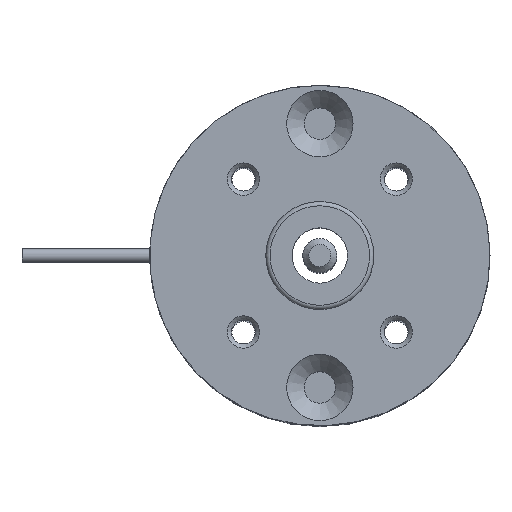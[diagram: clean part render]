
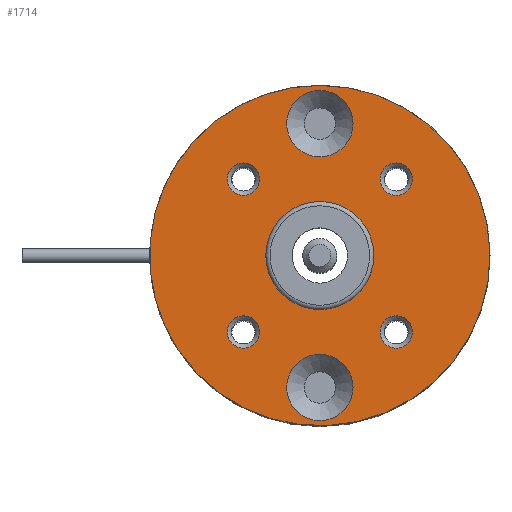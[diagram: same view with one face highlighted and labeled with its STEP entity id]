
A CAD part, top view. The second image highlights one B-rep face of the part: STEP entity #1714.
In plain terms, the highlighted planar face has unit normal (0, 0, 1).
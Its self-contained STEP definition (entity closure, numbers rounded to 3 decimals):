
#1526=CARTESIAN_POINT('',(-19.4,0.,12.6));
#1527=VERTEX_POINT('',#1526);
#1528=CARTESIAN_POINT('',(-15.5,0.,12.6));
#1529=DIRECTION('',(0.0,0.0,-1.0));
#1530=DIRECTION('',(-1.0,0.0,0.0));
#1531=AXIS2_PLACEMENT_3D('',#1528,#1529,#1530);
#1532=CIRCLE('',#1531,3.9);
#1533=EDGE_CURVE('',#1527,#1527,#1532,.T.);
#1574=CARTESIAN_POINT('',(19.4,0.0,12.6));
#1575=VERTEX_POINT('',#1574);
#1576=CARTESIAN_POINT('',(15.5,0.0,12.6));
#1577=DIRECTION('',(0.0,0.0,-1.0));
#1578=DIRECTION('',(1.0,0.0,0.0));
#1579=AXIS2_PLACEMENT_3D('',#1576,#1577,#1578);
#1580=CIRCLE('',#1579,3.9);
#1581=EDGE_CURVE('',#1575,#1575,#1580,.T.);
#1633=CARTESIAN_POINT('',(-8.98,10.88,12.6));
#1634=VERTEX_POINT('',#1633);
#1635=CARTESIAN_POINT('',(-8.98,8.98,12.6));
#1636=DIRECTION('',(0.0,0.0,1.0));
#1637=DIRECTION('',(0.0,-1.0,0.0));
#1638=AXIS2_PLACEMENT_3D('',#1635,#1636,#1637);
#1639=CIRCLE('',#1638,1.9);
#1640=EDGE_CURVE('',#1634,#1634,#1639,.T.);
#1645=CARTESIAN_POINT('',(0.0,0.0,12.6));
#1646=DIRECTION('',(0.0,0.0,-1.0));
#1647=DIRECTION('',(-1.0,0.0,0.0));
#1648=AXIS2_PLACEMENT_3D('',#1645,#1646,#1647);
#1649=PLANE('',#1648);
#1650=CARTESIAN_POINT('',(20.0,0.,12.6));
#1651=VERTEX_POINT('',#1650);
#1652=CARTESIAN_POINT('',(0.0,0.0,12.6));
#1653=DIRECTION('',(0.0,0.0,-1.0));
#1654=DIRECTION('',(-1.0,0.0,0.0));
#1655=AXIS2_PLACEMENT_3D('',#1652,#1653,#1654);
#1656=CIRCLE('',#1655,20.0);
#1657=EDGE_CURVE('',#1651,#1651,#1656,.T.);
#1658=ORIENTED_EDGE('',*,*,#1657,.F.);
#1659=EDGE_LOOP('',(#1658));
#1660=FACE_OUTER_BOUND('',#1659,.T.);
#1661=ORIENTED_EDGE('',*,*,#1533,.T.);
#1662=EDGE_LOOP('',(#1661));
#1663=FACE_BOUND('',#1662,.T.);
#1664=ORIENTED_EDGE('',*,*,#1581,.T.);
#1665=EDGE_LOOP('',(#1664));
#1666=FACE_BOUND('',#1665,.T.);
#1667=CARTESIAN_POINT('',(-10.88,-8.98,12.6));
#1668=VERTEX_POINT('',#1667);
#1669=CARTESIAN_POINT('',(-8.98,-8.98,12.6));
#1670=DIRECTION('',(0.0,0.0,1.0));
#1671=DIRECTION('',(1.0,0.0,0.0));
#1672=AXIS2_PLACEMENT_3D('',#1669,#1670,#1671);
#1673=CIRCLE('',#1672,1.9);
#1674=EDGE_CURVE('',#1668,#1668,#1673,.T.);
#1675=ORIENTED_EDGE('',*,*,#1674,.F.);
#1676=EDGE_LOOP('',(#1675));
#1677=FACE_BOUND('',#1676,.T.);
#1678=CARTESIAN_POINT('',(10.88,8.98,12.6));
#1679=VERTEX_POINT('',#1678);
#1680=CARTESIAN_POINT('',(8.98,8.98,12.6));
#1681=DIRECTION('',(0.0,0.0,1.0));
#1682=DIRECTION('',(-1.0,0.0,0.0));
#1683=AXIS2_PLACEMENT_3D('',#1680,#1681,#1682);
#1684=CIRCLE('',#1683,1.9);
#1685=EDGE_CURVE('',#1679,#1679,#1684,.T.);
#1686=ORIENTED_EDGE('',*,*,#1685,.F.);
#1687=EDGE_LOOP('',(#1686));
#1688=FACE_BOUND('',#1687,.T.);
#1689=CARTESIAN_POINT('',(6.35,0.,12.6));
#1690=VERTEX_POINT('',#1689);
#1691=CARTESIAN_POINT('',(0.0,0.0,12.6));
#1692=DIRECTION('',(0.0,0.0,-1.0));
#1693=DIRECTION('',(-1.0,0.0,0.0));
#1694=AXIS2_PLACEMENT_3D('',#1691,#1692,#1693);
#1695=CIRCLE('',#1694,6.35);
#1696=EDGE_CURVE('',#1690,#1690,#1695,.T.);
#1697=ORIENTED_EDGE('',*,*,#1696,.T.);
#1698=EDGE_LOOP('',(#1697));
#1699=FACE_BOUND('',#1698,.T.);
#1700=CARTESIAN_POINT('',(8.98,-10.88,12.6));
#1701=VERTEX_POINT('',#1700);
#1702=CARTESIAN_POINT('',(8.98,-8.98,12.6));
#1703=DIRECTION('',(0.0,0.0,1.0));
#1704=DIRECTION('',(0.0,1.0,0.0));
#1705=AXIS2_PLACEMENT_3D('',#1702,#1703,#1704);
#1706=CIRCLE('',#1705,1.9);
#1707=EDGE_CURVE('',#1701,#1701,#1706,.T.);
#1708=ORIENTED_EDGE('',*,*,#1707,.F.);
#1709=EDGE_LOOP('',(#1708));
#1710=FACE_BOUND('',#1709,.T.);
#1711=ORIENTED_EDGE('',*,*,#1640,.F.);
#1712=EDGE_LOOP('',(#1711));
#1713=FACE_BOUND('',#1712,.T.);
#1714=ADVANCED_FACE('',(#1660,#1663,#1666,#1677,#1688,#1699,#1710,#1713),#1649,.F.);
